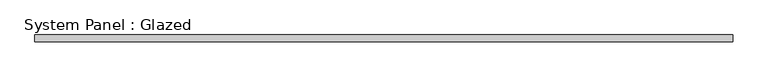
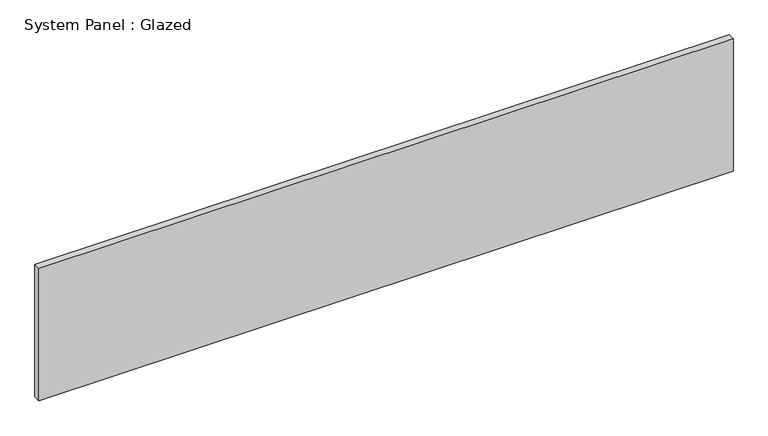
"""IFC4 building model written with IfcOpenShell, lengths in millimetres: plate geometry, System Panel : Glazed."""

from ifc_helpers import new_model, si_unit, origin, origin_with_axes, place, context, project, spatial, polyline, outline, extrude, source, transform, mapped, element, save


def system_panel_glazed_967a94bb(model_context):
    return source(origin(), model_context, "Body", "SweptSolid", [
        extrude(outline(polyline([(1319.7377931, 19.05), (-1319.7377931, 19.05), (-1319.7377931, 44.45), (1319.7377931, 44.45), (1319.7377931, 19.05)])), origin_with_axes(), (0.0, 0.0, 1.0), 533.0898546),
    ])


if __name__ == "__main__":
    model = new_model("IFC4")
    model_context = context("Model", 3, world=origin())
    ifc_project = project(units=[si_unit("LENGTHUNIT", "METRE", prefix="MILLI")], contexts=[model_context])
    site = spatial("IfcSite", under=ifc_project)
    building = spatial("IfcBuilding", under=site)
    placement = place(None, origin())
    system_panel_glazed_shape = system_panel_glazed_967a94bb(model_context)
    element("IfcPlate", 1, ObjectType="System Panel : Glazed", at=placement, inside=building, context=model_context, shape_type="MappedRepresentation", body=[
        mapped(system_panel_glazed_shape, transform((0.0, 0.0, 0.0), x_axis=(1.0, 0.0, 0.0), y_axis=(0.0, 1.0, 0.0), z_axis=(0.0, 0.0, 1.0))),
    ])
    save(model, "model.ifc")
